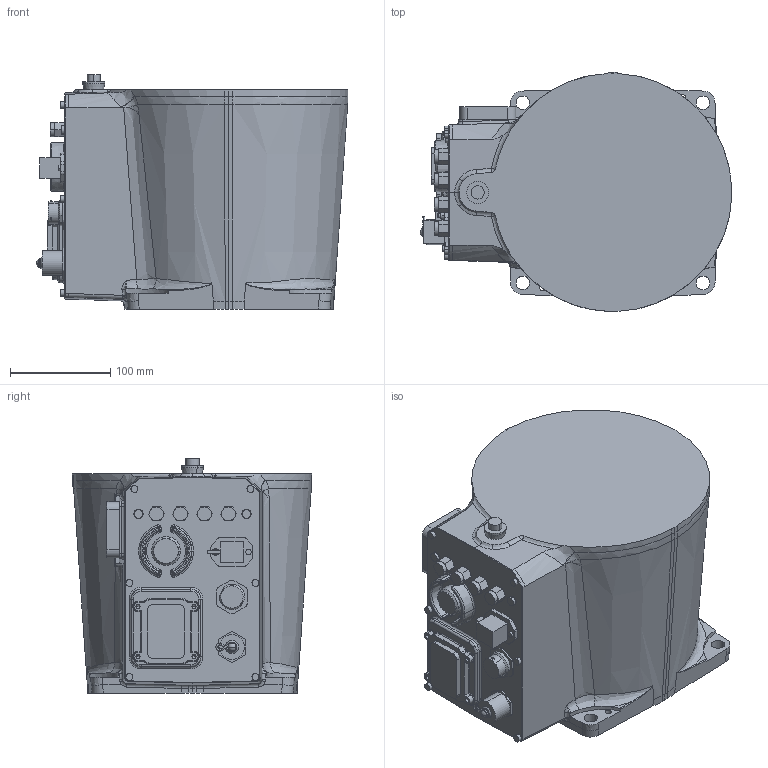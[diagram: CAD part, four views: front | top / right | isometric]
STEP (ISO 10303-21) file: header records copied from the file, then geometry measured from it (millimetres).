
FILE_DESCRIPTION (( 'STEP AP203' ), '1' );
FILE_NAME ('base_stan.STEP', '2013-12-01T14:01:43', ( 'ABB' ), ( 'ABB' ), 'SwSTEP 2.0', 'SolidWorks 2012', '' );
FILE_SCHEMA (( 'CONFIG_CONTROL_DESIGN' ));
Length unit declared in the file: millimetre
Products named in the file (1): base_stan
Bounding box: 311.72 x 239.07 x 234 mm (x, y, z)
Volume: 10647359.3 mm3; surface area: 313893 mm2
Topology: 2 solids, 4 shells, 757 faces, 1840 edges, 1116 vertices
Faces by surface type: plane 213, cylinder 211, bspline 136, cone 119, torus 62, sphere 16
Entity records: 31248 total; most frequent: CARTESIAN_POINT 14807, ORIENTED_EDGE 3650, DIRECTION 3162, EDGE_CURVE 1825, AXIS2_PLACEMENT_3D 1273, VERTEX_POINT 1116, EDGE_LOOP 815, FACE_OUTER_BOUND 757
